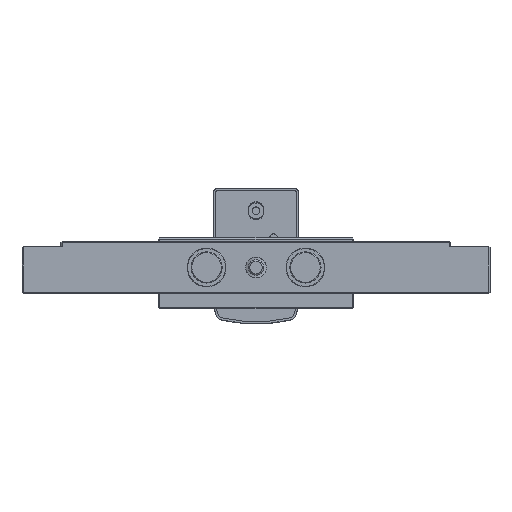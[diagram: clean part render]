
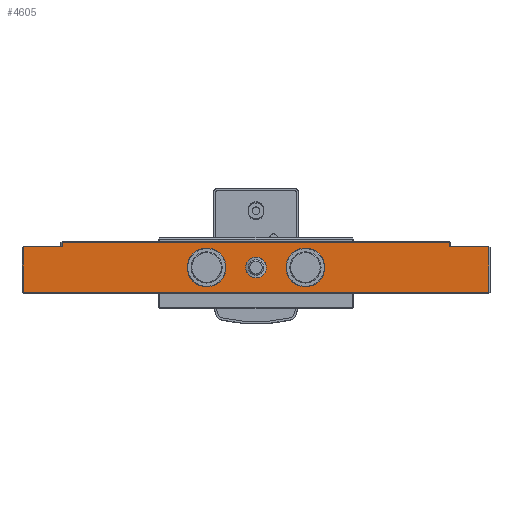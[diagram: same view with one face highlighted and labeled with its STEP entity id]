
A CAD part, top view. The second image highlights one B-rep face of the part: STEP entity #4605.
In plain terms, the highlighted planar face has unit normal (0, 0, 1) as drawn and (0, 0, -1) by its records, which use the part's own axes.
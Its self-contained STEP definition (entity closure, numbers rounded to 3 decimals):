
#111 = DIRECTION ( 'NONE',  ( 1., 0., 0. ) ) ;
#281 = CARTESIAN_POINT ( 'NONE',  ( -90., 8., -37.5 ) ) ;
#428 = DIRECTION ( 'NONE',  ( 1., 0., 0. ) ) ;
#556 = DIRECTION ( 'NONE',  ( -1., 0., 0. ) ) ;
#819 = CARTESIAN_POINT ( 'NONE',  ( 90., -9.6, -37.5 ) ) ;
#902 = ORIENTED_EDGE ( 'NONE', *, *, #24314, .F. ) ;
#997 = DIRECTION ( 'NONE',  ( 0., 0., -1. ) ) ;
#1104 = EDGE_CURVE ( 'NONE', #11512, #23582, #12196, .T. ) ;
#1141 = VERTEX_POINT ( 'NONE', #22696 ) ;
#1426 = DIRECTION ( 'NONE',  ( 0., 0., -1. ) ) ;
#2000 = AXIS2_PLACEMENT_3D ( 'NONE', #15081, #3489, #17029 ) ;
#2094 = EDGE_LOOP ( 'NONE', ( #19973, #20847 ) ) ;
#2567 = DIRECTION ( 'NONE',  ( 0., 0., -1. ) ) ;
#2617 = CARTESIAN_POINT ( 'NONE',  ( -89.6, -10., -37.5 ) ) ;
#2630 = CIRCLE ( 'NONE', #9750, 7.45 ) ;
#2849 = ORIENTED_EDGE ( 'NONE', *, *, #11398, .F. ) ;
#2882 = CARTESIAN_POINT ( 'NONE',  ( 74.6, 9.6, -37.5 ) ) ;
#3007 = EDGE_LOOP ( 'NONE', ( #902, #2849 ) ) ;
#3253 = CARTESIAN_POINT ( 'NONE',  ( 89.6, -10., -37.5 ) ) ;
#3489 = DIRECTION ( 'NONE',  ( 0., 0., -1. ) ) ;
#3492 = VERTEX_POINT ( 'NONE', #2882 ) ;
#3498 = CARTESIAN_POINT ( 'NONE',  ( -74.6, -10., -37.5 ) ) ;
#3550 = AXIS2_PLACEMENT_3D ( 'NONE', #6571, #22001, #10435 ) ;
#3631 = EDGE_CURVE ( 'NONE', #20670, #17405, #18463, .T. ) ;
#3963 = CARTESIAN_POINT ( 'NONE',  ( -74.6, 8., -37.5 ) ) ;
#4030 = EDGE_CURVE ( 'NONE', #3492, #6015, #9930, .T. ) ;
#4118 = ORIENTED_EDGE ( 'NONE', *, *, #12067, .F. ) ;
#4593 = DIRECTION ( 'NONE',  ( 0., 1., 0. ) ) ;
#4605 = ADVANCED_FACE ( 'NONE', ( #18412, #6915, #21695, #16589 ), #14240, .F. ) ;
#4655 = LINE ( 'NONE', #9460, #14920 ) ;
#5465 = DIRECTION ( 'NONE',  ( 1., 0., 0. ) ) ;
#5741 = LINE ( 'NONE', #2617, #15407 ) ;
#6015 = VERTEX_POINT ( 'NONE', #23842 ) ;
#6177 = CARTESIAN_POINT ( 'NONE',  ( -11.55, 0., -37.5 ) ) ;
#6571 = CARTESIAN_POINT ( 'NONE',  ( 90., -10., -37.5 ) ) ;
#6590 = DIRECTION ( 'NONE',  ( 0., -1., 0. ) ) ;
#6915 = FACE_BOUND ( 'NONE', #2094, .T. ) ;
#7086 = VECTOR ( 'NONE', #556, 1000. ) ;
#7376 = ORIENTED_EDGE ( 'NONE', *, *, #16695, .F. ) ;
#7625 = VERTEX_POINT ( 'NONE', #15504 ) ;
#7837 = VERTEX_POINT ( 'NONE', #18039 ) ;
#7901 = VECTOR ( 'NONE', #18989, 1000. ) ;
#8154 = ORIENTED_EDGE ( 'NONE', *, *, #24241, .T. ) ;
#8601 = CARTESIAN_POINT ( 'NONE',  ( -26.45, 0., -37.5 ) ) ;
#8914 = LINE ( 'NONE', #3253, #23612 ) ;
#9306 = AXIS2_PLACEMENT_3D ( 'NONE', #23495, #11997, #428 ) ;
#9460 = CARTESIAN_POINT ( 'NONE',  ( 90., 8., -37.5 ) ) ;
#9750 = AXIS2_PLACEMENT_3D ( 'NONE', #12539, #997, #14511 ) ;
#9930 = LINE ( 'NONE', #22019, #15091 ) ;
#10435 = DIRECTION ( 'NONE',  ( -1., 0., 0. ) ) ;
#10870 = AXIS2_PLACEMENT_3D ( 'NONE', #14140, #2567, #16104 ) ;
#10939 = DIRECTION ( 'NONE',  ( 0., -1., 0. ) ) ;
#11120 = VERTEX_POINT ( 'NONE', #22259 ) ;
#11386 = DIRECTION ( 'NONE',  ( -1., 0., 0. ) ) ;
#11398 = EDGE_CURVE ( 'NONE', #7837, #16271, #17804, .T. ) ;
#11512 = VERTEX_POINT ( 'NONE', #15837 ) ;
#11687 = DIRECTION ( 'NONE',  ( 0., 0., -1. ) ) ;
#11763 = VERTEX_POINT ( 'NONE', #3963 ) ;
#11997 = DIRECTION ( 'NONE',  ( 0., 0., -1. ) ) ;
#12067 = EDGE_CURVE ( 'NONE', #16814, #24564, #2630, .T. ) ;
#12108 = CARTESIAN_POINT ( 'NONE',  ( 26.45, 0., -37.5 ) ) ;
#12196 = LINE ( 'NONE', #819, #7086 ) ;
#12539 = CARTESIAN_POINT ( 'NONE',  ( 19., 0., -37.5 ) ) ;
#12977 = LINE ( 'NONE', #15089, #21430 ) ;
#13007 = CARTESIAN_POINT ( 'NONE',  ( -19., 0., -37.5 ) ) ;
#13160 = ORIENTED_EDGE ( 'NONE', *, *, #4030, .T. ) ;
#13231 = ORIENTED_EDGE ( 'NONE', *, *, #17624, .T. ) ;
#14140 = CARTESIAN_POINT ( 'NONE',  ( -19., 0., -37.5 ) ) ;
#14240 = PLANE ( 'NONE',  #3550 ) ;
#14385 = VECTOR ( 'NONE', #17691, 1000. ) ;
#14511 = DIRECTION ( 'NONE',  ( 1., 0., 0. ) ) ;
#14579 = AXIS2_PLACEMENT_3D ( 'NONE', #13007, #1426, #14953 ) ;
#14859 = CIRCLE ( 'NONE', #9306, 7.45 ) ;
#14920 = VECTOR ( 'NONE', #11386, 1000. ) ;
#14953 = DIRECTION ( 'NONE',  ( 1., 0., 0. ) ) ;
#15063 = EDGE_LOOP ( 'NONE', ( #7376, #4118 ) ) ;
#15081 = CARTESIAN_POINT ( 'NONE',  ( 0., 0., -37.5 ) ) ;
#15089 = CARTESIAN_POINT ( 'NONE',  ( 75., 9.6, -37.5 ) ) ;
#15091 = VECTOR ( 'NONE', #6590, 1000. ) ;
#15347 = EDGE_LOOP ( 'NONE', ( #13160, #24843, #8154, #16578, #13231, #24239, #19782, #21280 ) ) ;
#15407 = VECTOR ( 'NONE', #4593, 1000. ) ;
#15504 = CARTESIAN_POINT ( 'NONE',  ( -89.6, 8., -37.5 ) ) ;
#15837 = CARTESIAN_POINT ( 'NONE',  ( 89.6, -9.6, -37.5 ) ) ;
#16104 = DIRECTION ( 'NONE',  ( 1., 0., 0. ) ) ;
#16271 = VERTEX_POINT ( 'NONE', #23665 ) ;
#16578 = ORIENTED_EDGE ( 'NONE', *, *, #1104, .T. ) ;
#16589 = FACE_OUTER_BOUND ( 'NONE', #15347, .T. ) ;
#16608 = CIRCLE ( 'NONE', #10870, 7.45 ) ;
#16695 = EDGE_CURVE ( 'NONE', #24564, #16814, #14859, .T. ) ;
#16814 = VERTEX_POINT ( 'NONE', #18199 ) ;
#17029 = DIRECTION ( 'NONE',  ( 1., 0., 0. ) ) ;
#17405 = VERTEX_POINT ( 'NONE', #8601 ) ;
#17624 = EDGE_CURVE ( 'NONE', #23582, #7625, #5741, .T. ) ;
#17691 = DIRECTION ( 'NONE',  ( -1., 0., 0. ) ) ;
#17804 = CIRCLE ( 'NONE', #21572, 4. ) ;
#18039 = CARTESIAN_POINT ( 'NONE',  ( -4., 0., -37.5 ) ) ;
#18199 = CARTESIAN_POINT ( 'NONE',  ( 11.55, 0., -37.5 ) ) ;
#18412 = FACE_BOUND ( 'NONE', #15063, .T. ) ;
#18463 = CIRCLE ( 'NONE', #14579, 7.45 ) ;
#18479 = EDGE_CURVE ( 'NONE', #1141, #3492, #12977, .T. ) ;
#18989 = DIRECTION ( 'NONE',  ( 0., 1., 0. ) ) ;
#19532 = LINE ( 'NONE', #281, #14385 ) ;
#19782 = ORIENTED_EDGE ( 'NONE', *, *, #20142, .T. ) ;
#19973 = ORIENTED_EDGE ( 'NONE', *, *, #3631, .F. ) ;
#20142 = EDGE_CURVE ( 'NONE', #11763, #1141, #23222, .T. ) ;
#20670 = VERTEX_POINT ( 'NONE', #6177 ) ;
#20847 = ORIENTED_EDGE ( 'NONE', *, *, #21313, .F. ) ;
#21280 = ORIENTED_EDGE ( 'NONE', *, *, #18479, .T. ) ;
#21313 = EDGE_CURVE ( 'NONE', #17405, #20670, #16608, .T. ) ;
#21430 = VECTOR ( 'NONE', #5465, 1000. ) ;
#21572 = AXIS2_PLACEMENT_3D ( 'NONE', #23201, #11687, #111 ) ;
#21695 = FACE_BOUND ( 'NONE', #3007, .T. ) ;
#22001 = DIRECTION ( 'NONE',  ( 0., 0., 1. ) ) ;
#22019 = CARTESIAN_POINT ( 'NONE',  ( 74.6, -10., -37.5 ) ) ;
#22259 = CARTESIAN_POINT ( 'NONE',  ( 89.6, 8., -37.5 ) ) ;
#22696 = CARTESIAN_POINT ( 'NONE',  ( -74.6, 9.6, -37.5 ) ) ;
#22938 = EDGE_CURVE ( 'NONE', #11763, #7625, #19532, .T. ) ;
#23035 = CIRCLE ( 'NONE', #2000, 4. ) ;
#23201 = CARTESIAN_POINT ( 'NONE',  ( 0., 0., -37.5 ) ) ;
#23222 = LINE ( 'NONE', #3498, #7901 ) ;
#23495 = CARTESIAN_POINT ( 'NONE',  ( 19., 0., -37.5 ) ) ;
#23582 = VERTEX_POINT ( 'NONE', #23714 ) ;
#23612 = VECTOR ( 'NONE', #10939, 1000. ) ;
#23665 = CARTESIAN_POINT ( 'NONE',  ( 4., 0., -37.5 ) ) ;
#23714 = CARTESIAN_POINT ( 'NONE',  ( -89.6, -9.6, -37.5 ) ) ;
#23842 = CARTESIAN_POINT ( 'NONE',  ( 74.6, 8., -37.5 ) ) ;
#24239 = ORIENTED_EDGE ( 'NONE', *, *, #22938, .F. ) ;
#24241 = EDGE_CURVE ( 'NONE', #11120, #11512, #8914, .T. ) ;
#24314 = EDGE_CURVE ( 'NONE', #16271, #7837, #23035, .T. ) ;
#24564 = VERTEX_POINT ( 'NONE', #12108 ) ;
#24843 = ORIENTED_EDGE ( 'NONE', *, *, #24924, .F. ) ;
#24924 = EDGE_CURVE ( 'NONE', #11120, #6015, #4655, .T. ) ;
